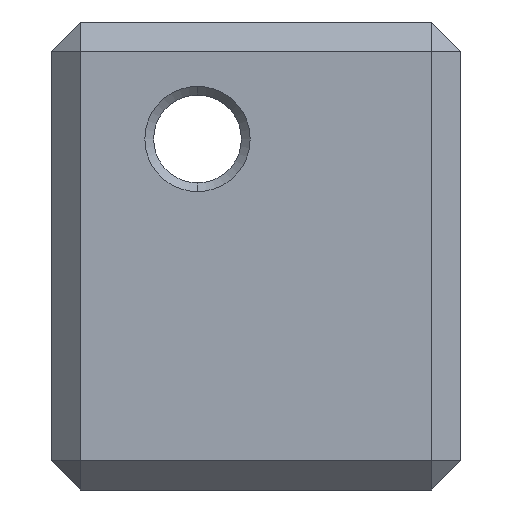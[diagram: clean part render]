
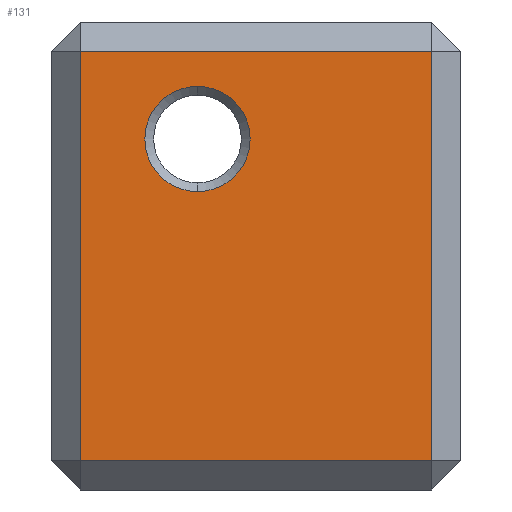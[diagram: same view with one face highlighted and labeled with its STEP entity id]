
A CAD part, left-side view. The second image highlights one B-rep face of the part: STEP entity #131.
In plain terms, the highlighted planar face has unit normal (-1, 0, 0).
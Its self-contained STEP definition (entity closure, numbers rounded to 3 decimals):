
#7 = AXIS2_PLACEMENT_3D ( 'NONE', #794, #23, #161 ) ;
#23 = DIRECTION ( 'NONE',  ( 1., 0., 0. ) ) ;
#39 = CARTESIAN_POINT ( 'NONE',  ( 0., 13., -7. ) ) ;
#45 = LINE ( 'NONE', #100, #641 ) ;
#46 = DIRECTION ( 'NONE',  ( 1., 0., 0. ) ) ;
#63 = DIRECTION ( 'NONE',  ( 0., 0., -1. ) ) ;
#70 = ORIENTED_EDGE ( 'NONE', *, *, #658, .T. ) ;
#85 = LINE ( 'NONE', #392, #260 ) ;
#88 = DIRECTION ( 'NONE',  ( 0., -1., 0. ) ) ;
#93 = EDGE_CURVE ( 'NONE', #343, #778, #423, .T. ) ;
#100 = CARTESIAN_POINT ( 'NONE',  ( 0., 13., 8. ) ) ;
#102 = CARTESIAN_POINT ( 'NONE',  ( 0., 9., 2.2 ) ) ;
#122 = EDGE_CURVE ( 'NONE', #736, #544, #669, .T. ) ;
#131 = ADVANCED_FACE ( 'NONE', ( #532, #548 ), #606, .F. ) ;
#147 = CARTESIAN_POINT ( 'NONE',  ( 0., 1., 7. ) ) ;
#149 = DIRECTION ( 'NONE',  ( 0., 0., -1. ) ) ;
#161 = DIRECTION ( 'NONE',  ( 0., 0., -1. ) ) ;
#183 = VECTOR ( 'NONE', #88, 1000. ) ;
#224 = ORIENTED_EDGE ( 'NONE', *, *, #563, .T. ) ;
#242 = EDGE_LOOP ( 'NONE', ( #457, #70 ) ) ;
#260 = VECTOR ( 'NONE', #523, 1000. ) ;
#295 = CARTESIAN_POINT ( 'NONE',  ( 0., 0., 8. ) ) ;
#343 = VERTEX_POINT ( 'NONE', #39 ) ;
#358 = DIRECTION ( 'NONE',  ( 0., 0., -1. ) ) ;
#365 = DIRECTION ( 'NONE',  ( 0., 1., 0. ) ) ;
#391 = CARTESIAN_POINT ( 'NONE',  ( 0., 1., -7. ) ) ;
#392 = CARTESIAN_POINT ( 'NONE',  ( 0., 1., 8. ) ) ;
#395 = AXIS2_PLACEMENT_3D ( 'NONE', #295, #46, #149 ) ;
#422 = CARTESIAN_POINT ( 'NONE',  ( 0., 13., 7. ) ) ;
#423 = LINE ( 'NONE', #682, #183 ) ;
#426 = VERTEX_POINT ( 'NONE', #485 ) ;
#439 = DIRECTION ( 'NONE',  ( 1., 0., 0. ) ) ;
#457 = ORIENTED_EDGE ( 'NONE', *, *, #647, .T. ) ;
#469 = ORIENTED_EDGE ( 'NONE', *, *, #122, .T. ) ;
#475 = EDGE_CURVE ( 'NONE', #778, #736, #85, .T. ) ;
#485 = CARTESIAN_POINT ( 'NONE',  ( 0., 9., 5.8 ) ) ;
#523 = DIRECTION ( 'NONE',  ( 0., 0., 1. ) ) ;
#532 = FACE_BOUND ( 'NONE', #242, .T. ) ;
#544 = VERTEX_POINT ( 'NONE', #422 ) ;
#548 = FACE_OUTER_BOUND ( 'NONE', #697, .T. ) ;
#563 = EDGE_CURVE ( 'NONE', #544, #343, #45, .T. ) ;
#594 = ORIENTED_EDGE ( 'NONE', *, *, #475, .T. ) ;
#606 = PLANE ( 'NONE',  #395 ) ;
#641 = VECTOR ( 'NONE', #358, 1000. ) ;
#647 = EDGE_CURVE ( 'NONE', #426, #797, #783, .T. ) ;
#658 = EDGE_CURVE ( 'NONE', #797, #426, #713, .T. ) ;
#669 = LINE ( 'NONE', #800, #803 ) ;
#682 = CARTESIAN_POINT ( 'NONE',  ( 0., 0., -7. ) ) ;
#697 = EDGE_LOOP ( 'NONE', ( #469, #224, #710, #594 ) ) ;
#710 = ORIENTED_EDGE ( 'NONE', *, *, #93, .T. ) ;
#713 = CIRCLE ( 'NONE', #7, 1.8 ) ;
#736 = VERTEX_POINT ( 'NONE', #147 ) ;
#754 = CARTESIAN_POINT ( 'NONE',  ( 0., 9., 4. ) ) ;
#778 = VERTEX_POINT ( 'NONE', #391 ) ;
#783 = CIRCLE ( 'NONE', #819, 1.8 ) ;
#794 = CARTESIAN_POINT ( 'NONE',  ( 0., 9., 4. ) ) ;
#797 = VERTEX_POINT ( 'NONE', #102 ) ;
#800 = CARTESIAN_POINT ( 'NONE',  ( 0., 0., 7. ) ) ;
#803 = VECTOR ( 'NONE', #365, 1000. ) ;
#819 = AXIS2_PLACEMENT_3D ( 'NONE', #754, #439, #63 ) ;
